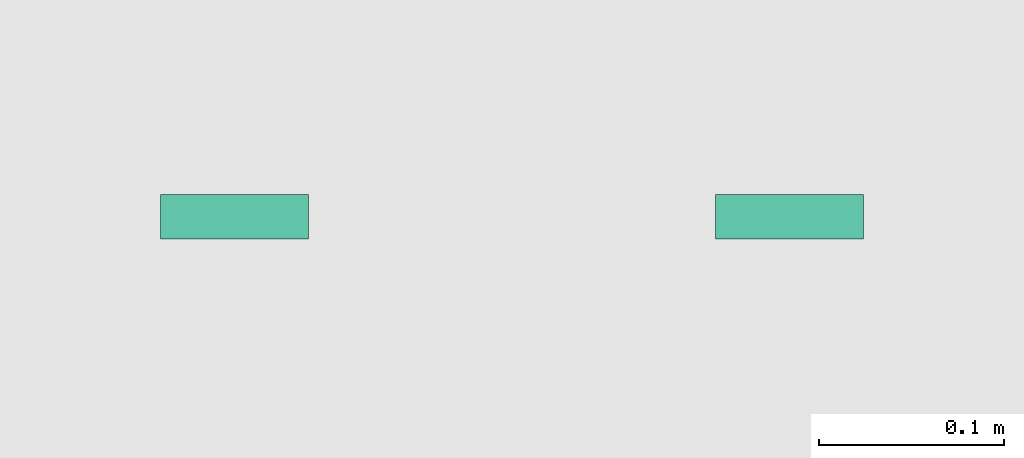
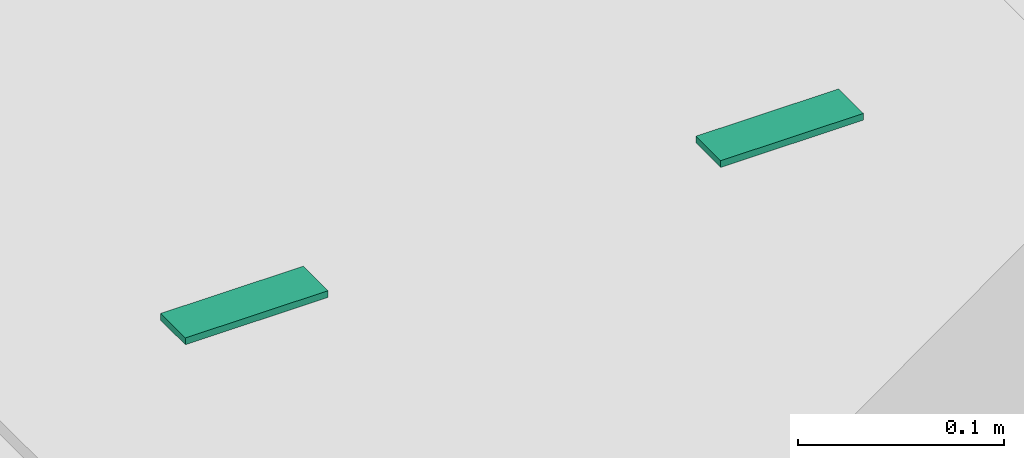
# One storey, part 140 of 177: 2 distribution chamber elements.
"""IFC4 building model written with IfcOpenShell, lengths in metres."""

from ifc_helpers import new_model, si_unit, origin, origin_with_axes, place, context, subcontext, project, spatial, triangles, element, save


model = new_model("IFC4")

# Units and contexts
model_context = context("Model", 3, precision=1e-05, world=origin_with_axes())
body_context = subcontext(model_context, "Body", "Model", "MODEL_VIEW")
ifc_project = project(units=[si_unit("LENGTHUNIT", "METRE"), si_unit("AREAUNIT", "SQUARE_METRE"), si_unit("VOLUMEUNIT", "CUBIC_METRE"), si_unit("PLANEANGLEUNIT", "RADIAN")], contexts=[model_context])

# Site, building, storey
site_placement = place(None, origin_with_axes())
site = spatial("IfcSite", under=ifc_project, at=site_placement, Name="Predio Los Mangos - Morales, San Martín", CompositionType="ELEMENT")
building_placement = place(site_placement, origin())
building = spatial("IfcBuilding", under=site, at=building_placement, Name="Hogar de Refugio Temporal", CompositionType="ELEMENT")
storey_placement = place(building_placement, origin())
storey = spatial("IfcBuildingStorey", under=building, at=storey_placement, Name="NIVEL 1 (NPT +0.00)", CompositionType="ELEMENT", Elevation=0.0)

# Distribution chamber elements
distribution_chamber_element_1_placement = place(storey_placement, origin())
element("IfcDistributionChamberElement", 1, at=distribution_chamber_element_1_placement, inside=storey, Name="tapa_insp_asa", ObjectType="Tapa de inspección", PredefinedType="INSPECTIONCHAMBER", context=body_context, shape_type="Tessellation", body=[
    triangles([(28.165, 88.317, 0.104), (28.245, 88.317, 0.104), (28.245, 88.341, 0.104), (28.165, 88.341, 0.104), (28.165, 88.317, 0.108), (28.245, 88.317, 0.108), (28.245, 88.341, 0.108), (28.165, 88.341, 0.108)], [[1, 4, 3], [1, 3, 2], [5, 6, 7], [5, 7, 8], [1, 2, 6], [1, 6, 5], [2, 3, 7], [2, 7, 6], [3, 4, 8], [3, 8, 7], [4, 1, 5], [4, 5, 8]]),
])
distribution_chamber_element_2_placement = place(storey_placement, origin())
element("IfcDistributionChamberElement", 2, at=distribution_chamber_element_2_placement, inside=storey, Name="tapa_insp_asa", ObjectType="Tapa de inspección", PredefinedType="INSPECTIONCHAMBER", context=body_context, shape_type="Tessellation", body=[
    triangles([(28.465, 88.317, 0.104), (28.545, 88.317, 0.104), (28.545, 88.341, 0.104), (28.465, 88.341, 0.104), (28.465, 88.317, 0.108), (28.545, 88.317, 0.108), (28.545, 88.341, 0.108), (28.465, 88.341, 0.108)], [[1, 4, 3], [1, 3, 2], [5, 6, 7], [5, 7, 8], [1, 2, 6], [1, 6, 5], [2, 3, 7], [2, 7, 6], [3, 4, 8], [3, 8, 7], [4, 1, 5], [4, 5, 8]]),
])

save(model, "model.ifc")
